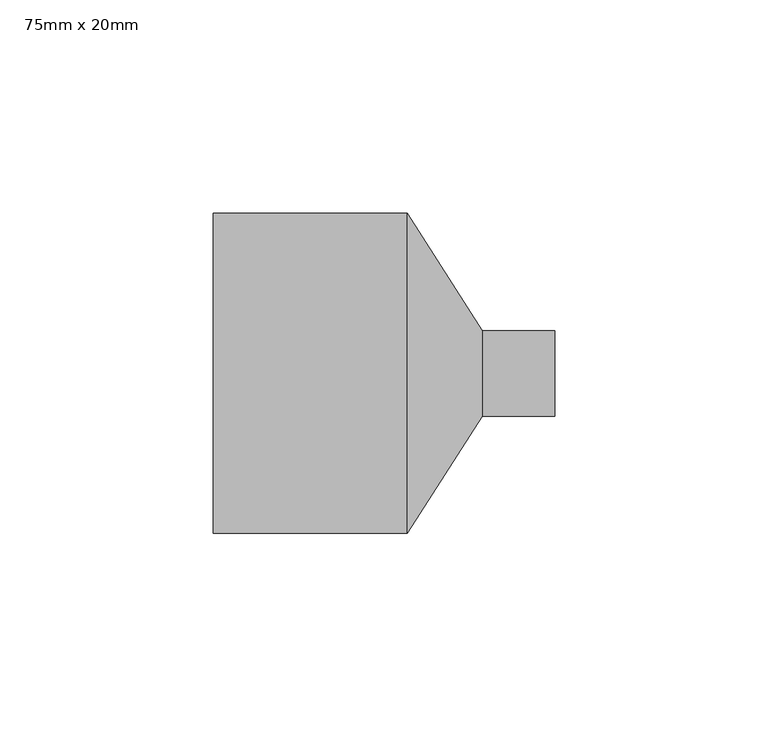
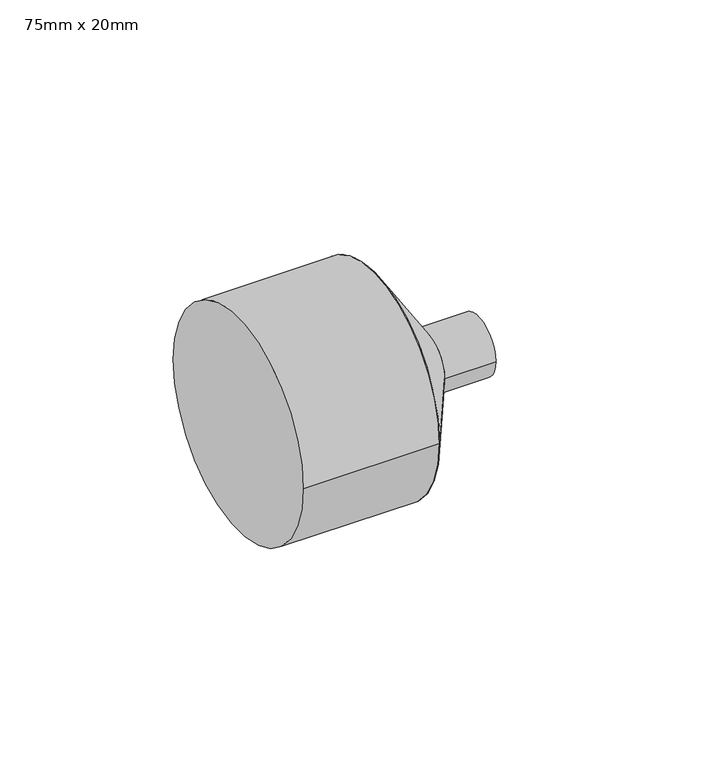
"""IFC4 building model written with IfcOpenShell, lengths in millimetres: pipe fitting geometry, PipeFitting_HTA_CPVC_ReducingBushesLongPattern : 75mm x 20mm."""

from ifc_helpers import new_model, si_unit, point, frame, origin, origin_2d, place, context, project, spatial, polyline, circle_curve, trimmed, segment, composite_curve, outline, extrude, source, transform, mapped, element, save
from ifc_brep_helpers import plane_surface, revolved_surface, advanced_brep


def pipe_fitting_75mm_x_20mm_a1cb022e(model_context):
    return source(origin(), model_context, "Body", "SolidModel", [
        advanced_brep(
        [(63.0, -10.0, 0.0), (63.0, 10.0, 0.0), (45.5, -37.5, 0.0), (45.5, 37.5, 0.0)],
        [
            (0, 1, circle_curve(frame((63.0, 0.0, 0.0), z_axis=(1.0, 0.0, 0.0), x_axis=(0.0, -1.0, 0.0)), 10.0)),
            (1, 0, circle_curve(frame((63.0, 0.0, 0.0), z_axis=(1.0, 0.0, 0.0), x_axis=(0.0, 1.0, 0.0)), 10.0)),
            (2, 3, circle_curve(frame((45.5, 0.0, 0.0), z_axis=(-1.0, 0.0, 0.0), x_axis=(0.0, 1.0, 0.0)), 37.5)),
            (3, 2, circle_curve(frame((45.5, 0.0, 0.0), z_axis=(-1.0, 0.0, 0.0), x_axis=(0.0, -1.0, 0.0)), 37.5)),
            (3, 1),
            (0, 2),
        ],
        [
            plane_surface(frame((63.0, 0.0, 0.0), z_axis=(1.0, 0.0, 0.0), x_axis=(0.0, 0.0, -1.0))),
            plane_surface(frame((45.5, 0.0, 0.0), z_axis=(-1.0, 0.0, 0.0), x_axis=(0.0, 0.0, -1.0))),
            revolved_surface(polyline([(63.0, -10.000000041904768, 0.0), (45.5, -37.5, 0.0)]), (69.3636364, 0.0, 0.0), (-1.0, 0.0, 0.0)),
            revolved_surface(polyline([(63.0, 10.000000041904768, 0.0), (45.5, 37.5, 0.0)]), (69.3636364, 0.0, 0.0), (-1.0, 0.0, 0.0)),
        ],
        [
            (0, [[1, 2]]),
            (1, [[3, 4]]),
            (2, [[-4, 5, -1, 6]]),
            (3, [[-3, -6, -2, -5]]),
        ],
    ),
        extrude(outline(composite_curve([segment(trimmed(circle_curve(origin_2d(), 10.0), [point((-10.0, 0.0))], [point((10.0, 0.0))], False, "CARTESIAN"), True, "CONTINUOUS"), segment(trimmed(circle_curve(origin_2d(), 10.0), [point((10.0, 0.0))], [point((-10.0, 0.0))], False, "CARTESIAN"), True, "CONTINUOUS")], self_intersect=False)), frame((63.0, 0.0, 0.0), z_axis=(1.0, 0.0, 0.0), x_axis=(0.0, 1.0, 0.0)), (0.0, 0.0, 1.0), 17.0),
        extrude(outline(composite_curve([segment(trimmed(circle_curve(origin_2d(), 37.5), [point((-37.5, 0.0))], [point((37.5, 0.0))], False, "CARTESIAN"), True, "CONTINUOUS"), segment(trimmed(circle_curve(origin_2d(), 37.5), [point((37.5, 0.0))], [point((-37.5, 0.0))], False, "CARTESIAN"), True, "CONTINUOUS")], self_intersect=False)), frame((0.0, 0.0, 0.0), z_axis=(1.0, 0.0, 0.0), x_axis=(0.0, 1.0, 0.0)), (0.0, 0.0, 1.0), 45.5),
    ])


if __name__ == "__main__":
    model = new_model("IFC4")
    model_context = context("Model", 3, world=origin())
    ifc_project = project(units=[si_unit("LENGTHUNIT", "METRE", prefix="MILLI")], contexts=[model_context])
    site = spatial("IfcSite", under=ifc_project)
    building = spatial("IfcBuilding", under=site)
    placement = place(None, origin())
    pipe_fitting_75mm_x_20mm_shape = pipe_fitting_75mm_x_20mm_a1cb022e(model_context)
    element("IfcPipeFitting", 1, ObjectType="PipeFitting_HTA_CPVC_ReducingBushesLongPattern : 75mm x 20mm", at=placement, inside=building, context=model_context, shape_type="MappedRepresentation", body=[
        mapped(pipe_fitting_75mm_x_20mm_shape, transform((0.0, 0.0, 0.0), x_axis=(1.0, 0.0, 0.0), y_axis=(0.0, 1.0, 0.0), z_axis=(0.0, 0.0, 1.0))),
    ])
    save(model, "model.ifc")
